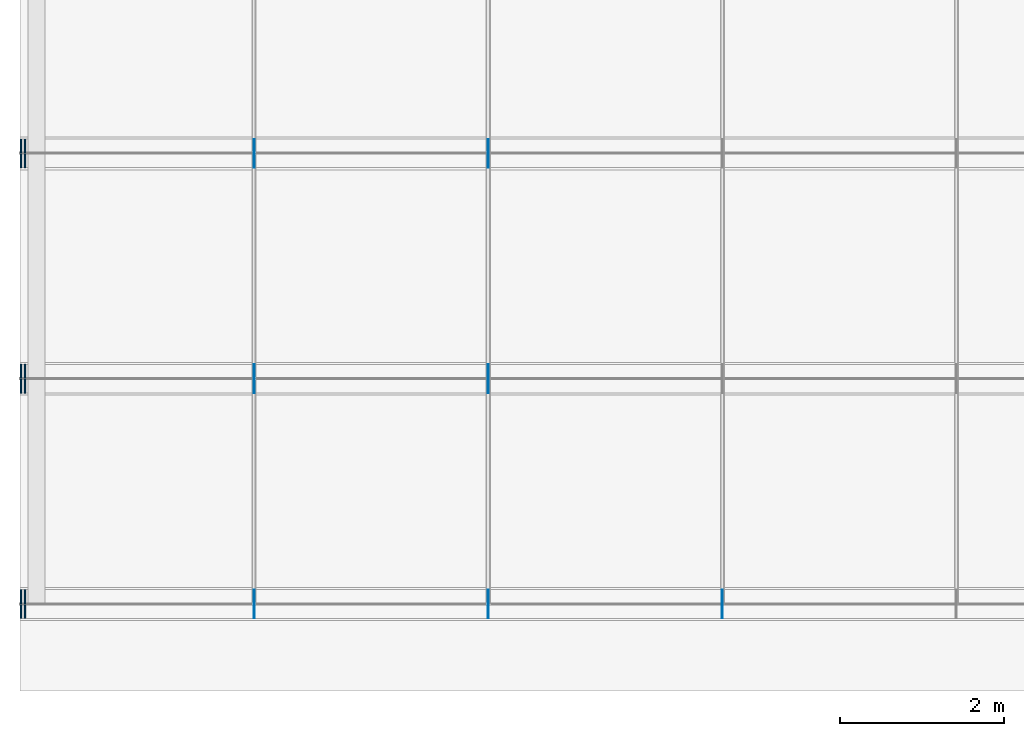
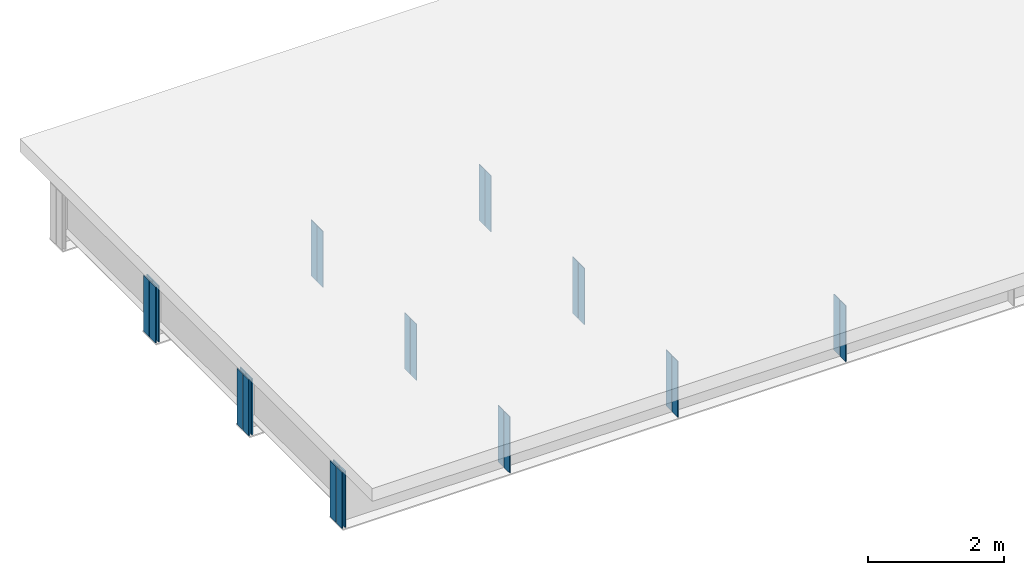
# One storey, part 2 of 12: 26 plates.
"""IFC4 building model written with IfcOpenShell, lengths in metres."""

from ifc_helpers import new_model, si_unit, frame, origin, origin_with_axes, origin_2d_with_axis, place, context, subcontext, project, spatial, rectangle, extrude, element, save


model = new_model("IFC4")

# Units and contexts
model_context = context("Model", 3, precision=1e-05, world=origin())
body_context = subcontext(model_context, "Body", "Model", "MODEL_VIEW")
ifc_project = project(units=[si_unit("LENGTHUNIT", "METRE"), si_unit("AREAUNIT", "SQUARE_METRE"), si_unit("VOLUMEUNIT", "CUBIC_METRE"), si_unit("PLANEANGLEUNIT", "RADIAN")], contexts=[model_context])

# Site, building, storey
site_placement = place(None, origin_with_axes())
site = spatial("IfcSite", under=ifc_project, at=site_placement, Name="Default Site")
building_placement = place(site_placement, origin_with_axes())
building = spatial("IfcBuilding", under=site, at=building_placement, Name="Bridge Structure")
storey_placement = place(building_placement, origin_with_axes())
storey = spatial("IfcBuildingStorey", under=building, at=storey_placement, Name="Superstructure")

# Plates
for number, where, z_axis, x_axis, name in (
    (1, (2.857, -4.0345, -0.505), (0.0, 0.0, 1.0), (1.0, 0.0, 0.0), "Intermediate Stiffener 1"),
    (2, (2.857, -4.2155000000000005, -0.505), (0.0, 0.0, 1.0), (1.0, 0.0, 0.0), "Intermediate Stiffener 1"),
    (3, (5.714, -4.0345, -0.505), (0.0, 0.0, 1.0), (1.0, 0.0, 0.0), "Intermediate Stiffener 1"),
    (4, (5.714, -4.2155000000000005, -0.505), (0.0, 0.0, 1.0), (1.0, 0.0, 0.0), "Intermediate Stiffener 1"),
    (5, (8.571, -4.0345, -0.505), (0.0, 0.0, 1.0), (1.0, 0.0, 0.0), "Intermediate Stiffener 1"),
    (6, (8.571, -4.2155000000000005, -0.505), (0.0, 0.0, 1.0), (1.0, 0.0, 0.0), "Intermediate Stiffener 1"),
):
    element("IfcPlate", number, at=place(storey_placement, frame(where, z_axis=z_axis, x_axis=x_axis)), inside=storey, Name=name, context=body_context, shape_type="SweptSolid", body=[
        extrude(rectangle(XDim=0.012, YDim=0.169, at=origin_2d_with_axis()), origin_with_axes(), (0.0, 0.0, 1.0), 1.01),
    ])
for number, where, z_axis, x_axis, name in (
    (7, (0.01, -4.0345, -0.505), (0.0, 0.0, 1.0), (1.0, 0.0, 0.0), "End Stiffener 1"),
    (8, (0.01, -4.2155000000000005, -0.505), (0.0, 0.0, 1.0), (1.0, 0.0, 0.0), "End Stiffener 1"),
    (9, (0.06, -4.0345, -0.505), (0.0, 0.0, 1.0), (1.0, 0.0, 0.0), "End Stiffener 1"),
    (10, (0.06, -4.2155000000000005, -0.505), (0.0, 0.0, 1.0), (1.0, 0.0, 0.0), "End Stiffener 1"),
):
    element("IfcPlate", number, at=place(storey_placement, frame(where, z_axis=z_axis, x_axis=x_axis)), inside=storey, Name=name, context=body_context, shape_type="SweptSolid", body=[
        extrude(rectangle(XDim=0.02, YDim=0.169, at=origin_2d_with_axis()), origin_with_axes(), (0.0, 0.0, 1.0), 1.01),
    ])
for number, where, z_axis, x_axis, name in (
    (11, (2.857, -1.2845, -0.505), (0.0, 0.0, 1.0), (1.0, 0.0, 0.0), "Intermediate Stiffener 2"),
    (12, (2.857, -1.4655, -0.505), (0.0, 0.0, 1.0), (1.0, 0.0, 0.0), "Intermediate Stiffener 2"),
    (13, (5.714, -1.2845, -0.505), (0.0, 0.0, 1.0), (1.0, 0.0, 0.0), "Intermediate Stiffener 2"),
    (14, (5.714, -1.4655, -0.505), (0.0, 0.0, 1.0), (1.0, 0.0, 0.0), "Intermediate Stiffener 2"),
):
    element("IfcPlate", number, at=place(storey_placement, frame(where, z_axis=z_axis, x_axis=x_axis)), inside=storey, Name=name, context=body_context, shape_type="SweptSolid", body=[
        extrude(rectangle(XDim=0.012, YDim=0.169, at=origin_2d_with_axis()), origin_with_axes(), (0.0, 0.0, 1.0), 1.01),
    ])
for number, where, z_axis, x_axis, name in (
    (15, (0.01, -1.2845, -0.505), (0.0, 0.0, 1.0), (1.0, 0.0, 0.0), "End Stiffener 2"),
    (16, (0.01, -1.4655, -0.505), (0.0, 0.0, 1.0), (1.0, 0.0, 0.0), "End Stiffener 2"),
    (17, (0.06, -1.2845, -0.505), (0.0, 0.0, 1.0), (1.0, 0.0, 0.0), "End Stiffener 2"),
    (18, (0.06, -1.4655, -0.505), (0.0, 0.0, 1.0), (1.0, 0.0, 0.0), "End Stiffener 2"),
):
    element("IfcPlate", number, at=place(storey_placement, frame(where, z_axis=z_axis, x_axis=x_axis)), inside=storey, Name=name, context=body_context, shape_type="SweptSolid", body=[
        extrude(rectangle(XDim=0.02, YDim=0.169, at=origin_2d_with_axis()), origin_with_axes(), (0.0, 0.0, 1.0), 1.01),
    ])
for number, where, z_axis, x_axis, name in (
    (19, (2.857, 1.4655, -0.505), (0.0, 0.0, 1.0), (1.0, 0.0, 0.0), "Intermediate Stiffener 3"),
    (20, (2.857, 1.2845, -0.505), (0.0, 0.0, 1.0), (1.0, 0.0, 0.0), "Intermediate Stiffener 3"),
    (21, (5.714, 1.4655, -0.505), (0.0, 0.0, 1.0), (1.0, 0.0, 0.0), "Intermediate Stiffener 3"),
    (22, (5.714, 1.2845, -0.505), (0.0, 0.0, 1.0), (1.0, 0.0, 0.0), "Intermediate Stiffener 3"),
):
    element("IfcPlate", number, at=place(storey_placement, frame(where, z_axis=z_axis, x_axis=x_axis)), inside=storey, Name=name, context=body_context, shape_type="SweptSolid", body=[
        extrude(rectangle(XDim=0.012, YDim=0.169, at=origin_2d_with_axis()), origin_with_axes(), (0.0, 0.0, 1.0), 1.01),
    ])
for number, where, z_axis, x_axis, name in (
    (23, (0.01, 1.4655, -0.505), (0.0, 0.0, 1.0), (1.0, 0.0, 0.0), "End Stiffener 3"),
    (24, (0.01, 1.2845, -0.505), (0.0, 0.0, 1.0), (1.0, 0.0, 0.0), "End Stiffener 3"),
    (25, (0.06, 1.4655, -0.505), (0.0, 0.0, 1.0), (1.0, 0.0, 0.0), "End Stiffener 3"),
    (26, (0.06, 1.2845, -0.505), (0.0, 0.0, 1.0), (1.0, 0.0, 0.0), "End Stiffener 3"),
):
    element("IfcPlate", number, at=place(storey_placement, frame(where, z_axis=z_axis, x_axis=x_axis)), inside=storey, Name=name, context=body_context, shape_type="SweptSolid", body=[
        extrude(rectangle(XDim=0.02, YDim=0.169, at=origin_2d_with_axis()), origin_with_axes(), (0.0, 0.0, 1.0), 1.01),
    ])

save(model, "model.ifc")
